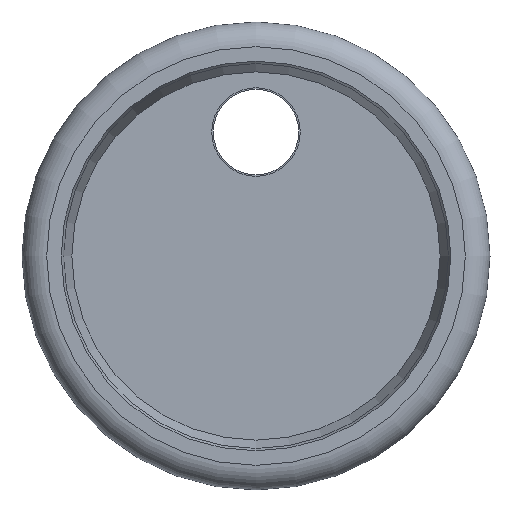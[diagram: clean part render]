
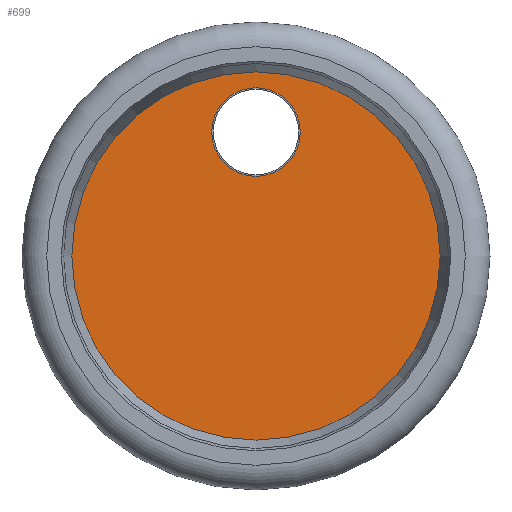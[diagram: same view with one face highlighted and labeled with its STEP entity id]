
A CAD part, left-side view. The second image highlights one B-rep face of the part: STEP entity #699.
In plain terms, the highlighted planar face has unit normal (-1, 0, 0) as drawn and (0, 0, 1) by its records, which use the part's own axes.
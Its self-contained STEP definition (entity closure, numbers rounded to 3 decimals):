
#648=CARTESIAN_POINT('',(12.5,35.0,2.0));
#649=VERTEX_POINT('',#648);
#650=CARTESIAN_POINT('',(0.0,35.0,2.));
#651=DIRECTION('',(0.0,0.0,-1.0));
#652=DIRECTION('',(1.0,0.0,0.0));
#653=AXIS2_PLACEMENT_3D('',#650,#651,#652);
#654=CIRCLE('',#653,12.5);
#655=EDGE_CURVE('',#649,#649,#654,.T.);
#665=CARTESIAN_POINT('',(53.5,0.,2.0));
#666=VERTEX_POINT('',#665);
#667=CARTESIAN_POINT('',(0.0,0.0,2.0));
#668=DIRECTION('',(0.0,0.0,-1.0));
#669=DIRECTION('',(-1.0,0.0,0.0));
#670=AXIS2_PLACEMENT_3D('',#667,#668,#669);
#671=CIRCLE('',#670,53.5);
#672=EDGE_CURVE('',#666,#666,#671,.T.);
#688=CARTESIAN_POINT('',(0.0,0.0,2.0));
#689=DIRECTION('',(0.0,0.0,-1.0));
#690=DIRECTION('',(-1.0,0.0,0.0));
#691=AXIS2_PLACEMENT_3D('',#688,#689,#690);
#692=PLANE('',#691);
#693=ORIENTED_EDGE('',*,*,#672,.F.);
#694=EDGE_LOOP('',(#693));
#695=FACE_OUTER_BOUND('',#694,.T.);
#696=ORIENTED_EDGE('',*,*,#655,.T.);
#697=EDGE_LOOP('',(#696));
#698=FACE_BOUND('',#697,.T.);
#699=ADVANCED_FACE('',(#695,#698),#692,.F.);
